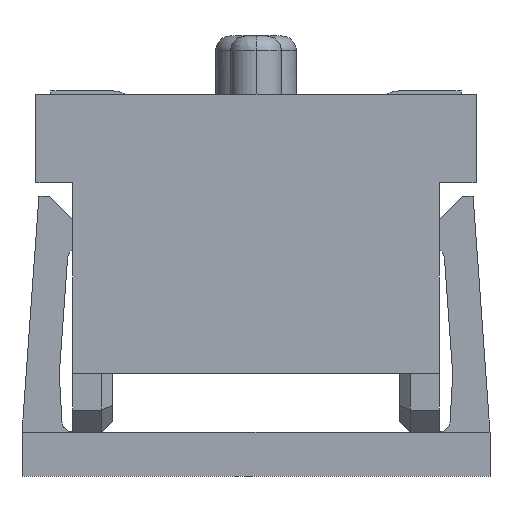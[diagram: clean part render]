
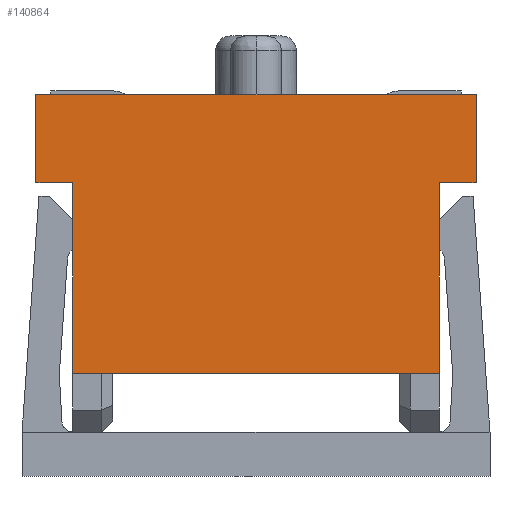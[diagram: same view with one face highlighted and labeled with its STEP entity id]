
A CAD part, left-side view. The second image highlights one B-rep face of the part: STEP entity #140864.
In plain terms, the highlighted planar face has unit normal (-1, 0, 0).
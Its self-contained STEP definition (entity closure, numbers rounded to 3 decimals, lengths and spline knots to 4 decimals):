
#1915=DIRECTION('',(0.,1.,0.));
#1916=VECTOR('',#1915,0.5);
#1917=CARTESIAN_POINT('',(-22.9,2.5,0.3));
#1918=LINE('',#1917,#1916);
#1919=DIRECTION('',(0.,0.,1.));
#1920=VECTOR('',#1919,1.2);
#1921=CARTESIAN_POINT('',(-22.9,3.,0.3));
#1922=LINE('',#1921,#1920);
#1923=DIRECTION('',(0.,-1.,0.));
#1924=VECTOR('',#1923,6.);
#1925=CARTESIAN_POINT('',(-22.9,3.,1.5));
#1926=LINE('',#1925,#1924);
#1927=DIRECTION('',(0.,0.,-1.));
#1928=VECTOR('',#1927,2.6);
#1929=CARTESIAN_POINT('',(-22.9,-2.5,0.3));
#1930=LINE('',#1929,#1928);
#1931=DIRECTION('',(0.,1.,0.));
#1932=VECTOR('',#1931,5.);
#1933=CARTESIAN_POINT('',(-22.9,-2.5,-2.3));
#1934=LINE('',#1933,#1932);
#1935=DIRECTION('',(0.,0.,1.));
#1936=VECTOR('',#1935,1.2);
#1937=CARTESIAN_POINT('',(-22.9,-3.,0.3));
#1938=LINE('',#1937,#1936);
#1947=DIRECTION('',(0.,-1.,0.));
#1948=VECTOR('',#1947,0.5);
#1949=CARTESIAN_POINT('',(-22.9,-2.5,0.3));
#1950=LINE('',#1949,#1948);
#2003=DIRECTION('',(0.,0.,-1.));
#2004=VECTOR('',#2003,2.6);
#2005=CARTESIAN_POINT('',(-22.9,2.5,0.3));
#2006=LINE('',#2005,#2004);
#106443=CARTESIAN_POINT('',(-22.9,2.5,-2.3));
#106444=VERTEX_POINT('',#106443);
#106446=CARTESIAN_POINT('',(-22.9,-2.5,-2.3));
#106448=VERTEX_POINT('',#106446);
#106538=CARTESIAN_POINT('',(-22.9,-2.5,0.3));
#106540=VERTEX_POINT('',#106538);
#107503=CARTESIAN_POINT('',(-22.9,-3.,1.5));
#107504=VERTEX_POINT('',#107503);
#107505=CARTESIAN_POINT('',(-22.9,3.,1.5));
#107506=VERTEX_POINT('',#107505);
#107521=CARTESIAN_POINT('',(-22.9,3.,0.3));
#107522=VERTEX_POINT('',#107521);
#107524=CARTESIAN_POINT('',(-22.9,2.5,0.3));
#107526=VERTEX_POINT('',#107524);
#107527=CARTESIAN_POINT('',(-22.9,-3.,0.3));
#107528=VERTEX_POINT('',#107527);
#140846=CARTESIAN_POINT('',(-22.9,0.,-0.4));
#140847=DIRECTION('',(1.,0.,0.));
#140848=DIRECTION('',(0.,-1.,0.));
#140849=AXIS2_PLACEMENT_3D('',#140846,#140847,#140848);
#140850=PLANE('',#140849);
#140851=ORIENTED_EDGE('',*,*,#140838,.T.);
#140852=ORIENTED_EDGE('',*,*,#140827,.T.);
#140853=ORIENTED_EDGE('',*,*,#140756,.T.);
#140855=ORIENTED_EDGE('',*,*,#140854,.F.);
#140857=ORIENTED_EDGE('',*,*,#140856,.F.);
#140858=ORIENTED_EDGE('',*,*,#140548,.T.);
#140859=ORIENTED_EDGE('',*,*,#140221,.T.);
#140861=ORIENTED_EDGE('',*,*,#140860,.F.);
#140862=EDGE_LOOP('',(#140851,#140852,#140853,#140855,#140857,#140858,#140859,
#140861));
#140863=FACE_OUTER_BOUND('',#140862,.F.);
#140221=EDGE_CURVE('',#106448,#106444,#1934,.T.);
#140548=EDGE_CURVE('',#106540,#106448,#1930,.T.);
#140756=EDGE_CURVE('',#107506,#107504,#1926,.T.);
#140827=EDGE_CURVE('',#107522,#107506,#1922,.T.);
#140838=EDGE_CURVE('',#107526,#107522,#1918,.T.);
#140854=EDGE_CURVE('',#107528,#107504,#1938,.T.);
#140856=EDGE_CURVE('',#106540,#107528,#1950,.T.);
#140860=EDGE_CURVE('',#107526,#106444,#2006,.T.);
#140864=ADVANCED_FACE('',(#140863),#140850,.F.);
